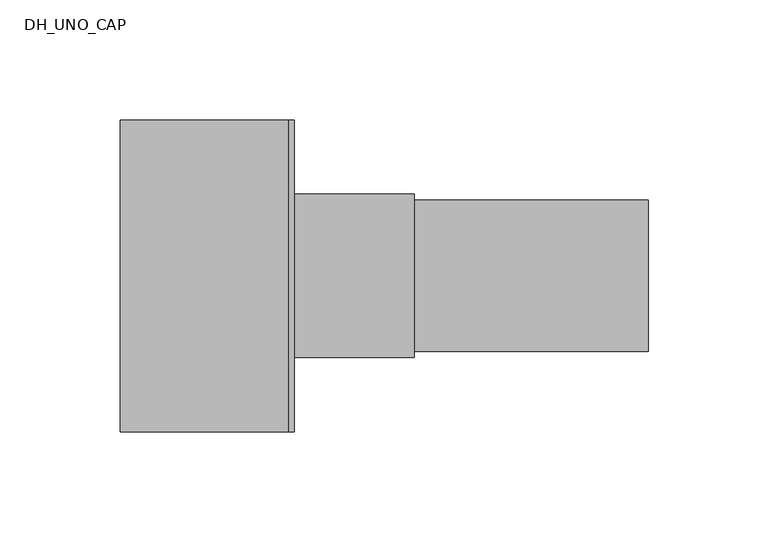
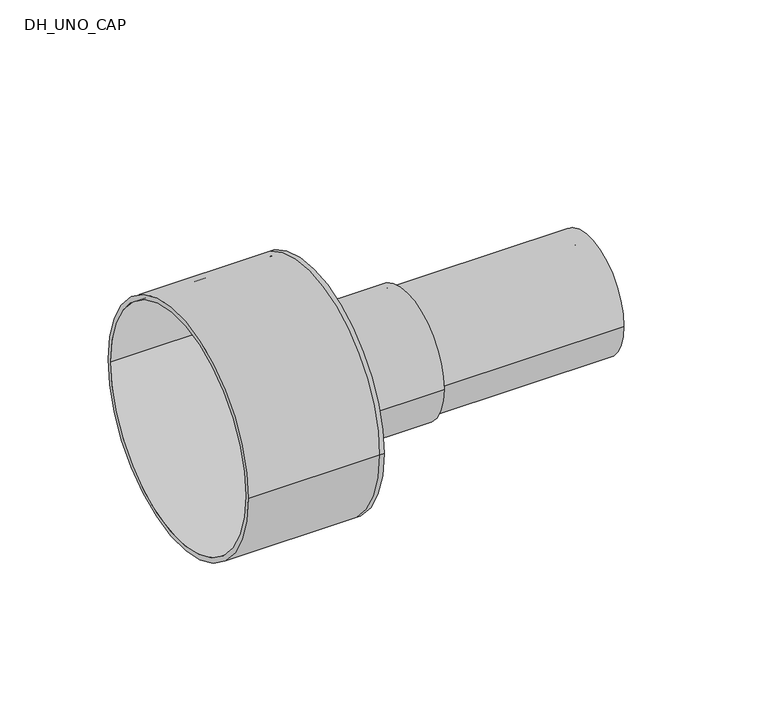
"""IFC4 building model written with IfcOpenShell, lengths in millimetres: pipe fitting geometry, DH_UNO_CAP : INSULPEX UNO 7.4 DW - Rubber Cap."""

from ifc_helpers import new_model, si_unit, point, frame, origin, origin_2d, place, context, project, spatial, polyline, circle_curve, trimmed, segment, composite_curve, outline, extrude, source, transform, mapped, element, save
from ifc_brep_helpers import plane_surface, cylinder_surface, revolved_surface, advanced_brep


def dh_uno_cap_1110688d(model_context):
    return source(origin(), model_context, "Body", "SolidModel", [
        extrude(outline(composite_curve([segment(trimmed(circle_curve(origin_2d(), 31.5), [point((-31.5, 0.0))], [point((31.5, 0.0))], False, "CARTESIAN"), True, "CONTINUOUS"), segment(trimmed(circle_curve(origin_2d(), 31.5), [point((31.5, 0.0))], [point((-31.5, 0.0))], False, "CARTESIAN"), True, "CONTINUOUS")], self_intersect=False), holes=[composite_curve([segment(trimmed(circle_curve(origin_2d(), 22.9), [point((-22.9, 0.0))], [point((22.9, 0.0))], True, "CARTESIAN"), True, "CONTINUOUS"), segment(trimmed(circle_curve(origin_2d(), 22.9), [point((22.9, 0.0))], [point((-22.9, 0.0))], True, "CARTESIAN"), True, "CONTINUOUS")], self_intersect=False)]), frame((0.0, 0.0, 0.0), z_axis=(1.0, 0.0, 0.0), x_axis=(0.0, 1.0, 0.0)), (0.0, 0.0, 1.0), 150.0),
        advanced_brep(
        [(-70.0, -65.0, 0.0), (-70.0, 65.0, 0.0), (-70.0, -62.5, 0.0), (-70.0, 62.5, 0.0), (0.0, -62.5, 0.0), (0.0, 62.5, 0.0), (0.0, -65.0, 0.0), (0.0, 65.0, 0.0), (0.0, 31.5, 0.0), (0.0, -31.5, 0.0), (2.5, -65.0, 0.0), (2.5, 65.0, 0.0), (2.5, -31.5, 0.0), (2.5, 31.5, 0.0)],
        [
            (0, 1, circle_curve(frame((-70.0, 0.0, 0.0), z_axis=(-1.0, 0.0, 0.0), x_axis=(0.0, 1.0, 0.0)), 65.0)),
            (1, 0, circle_curve(frame((-70.0, 0.0, 0.0), z_axis=(-1.0, 0.0, 0.0), x_axis=(0.0, 1.0, 0.0)), 65.0)),
            (2, 3, circle_curve(frame((-70.0, 0.0, 0.0), z_axis=(1.0, 0.0, 0.0), x_axis=(0.0, 1.0, 0.0)), 62.5)),
            (3, 2, circle_curve(frame((-70.0, 0.0, 0.0), z_axis=(1.0, 0.0, 0.0), x_axis=(0.0, 1.0, 0.0)), 62.5)),
            (2, 4),
            (4, 5, circle_curve(frame((0.0, 0.0, 0.0), z_axis=(1.0, 0.0, 0.0), x_axis=(0.0, 1.0, 0.0)), 62.5)),
            (5, 3),
            (5, 4, circle_curve(frame((0.0, 0.0, 0.0), z_axis=(1.0, 0.0, 0.0), x_axis=(0.0, 1.0, 0.0)), 62.5)),
            (0, 6),
            (6, 7, circle_curve(frame((0.0, 0.0, 0.0), z_axis=(-1.0, 0.0, 0.0), x_axis=(0.0, 1.0, 0.0)), 65.0)),
            (7, 1),
            (7, 6, circle_curve(frame((0.0, 0.0, 0.0), z_axis=(-1.0, 0.0, 0.0), x_axis=(0.0, 1.0, 0.0)), 65.0)),
            (8, 9, circle_curve(frame((0.0, 0.0, 0.0), z_axis=(1.0, 0.0, 0.0), x_axis=(0.0, 1.0, 0.0)), 31.5)),
            (9, 8, circle_curve(frame((0.0, 0.0, 0.0), z_axis=(1.0, 0.0, 0.0), x_axis=(0.0, 1.0, 0.0)), 31.5)),
            (10, 11, circle_curve(frame((2.5, 0.0, 0.0), z_axis=(1.0, 0.0, 0.0), x_axis=(0.0, 1.0, 0.0)), 65.0)),
            (11, 10, circle_curve(frame((2.5, 0.0, 0.0), z_axis=(1.0, 0.0, 0.0), x_axis=(0.0, 1.0, 0.0)), 65.0)),
            (12, 13, circle_curve(frame((2.5, 0.0, 0.0), z_axis=(-1.0, 0.0, 0.0), x_axis=(0.0, 1.0, 0.0)), 31.5)),
            (13, 12, circle_curve(frame((2.5, 0.0, 0.0), z_axis=(-1.0, 0.0, 0.0), x_axis=(0.0, 1.0, 0.0)), 31.5)),
            (11, 7),
            (6, 10),
            (8, 13),
            (12, 9),
        ],
        [
            plane_surface(frame((-70.0, 0.0, 0.0), z_axis=(-1.0, 0.0, 0.0), x_axis=(0.0, 0.0, 1.0))),
            revolved_surface(polyline([(0.0, 62.5, 0.0), (-70.0, 62.5, 0.0)]), (-70.0, 0.0, 0.0), (1.0, 0.0, 0.0)),
            cylinder_surface(frame((-70.0, 0.0, 0.0), z_axis=(-1.0, 0.0, 0.0), x_axis=(0.0, 1.0, 0.0)), 65.0),
            plane_surface(frame((0.0, 0.0, 0.0), z_axis=(-1.0, 0.0, 0.0), x_axis=(0.0, 0.0, 1.0))),
            plane_surface(frame((2.5, 0.0, 0.0), z_axis=(1.0, 0.0, 0.0), x_axis=(0.0, 0.0, 1.0))),
            cylinder_surface(frame((0.0, 0.0, 0.0), z_axis=(-1.0, 0.0, 0.0), x_axis=(0.0, 1.0, 0.0)), 65.0),
            revolved_surface(polyline([(0.0, 31.5, 0.0), (2.5, 31.5, 0.0)]), (0.0, 0.0, 0.0), (-1.0, 0.0, 0.0)),
        ],
        [
            (0, [[1, 2], [3, 4]]),
            (1, [[-3, 5, 6, 7]]),
            (1, [[-4, -7, 8, -5]]),
            (2, [[-1, 9, 10, 11]]),
            (2, [[-2, -11, 12, -9]]),
            (3, [[-6, -8], [13, 14]]),
            (4, [[15, 16], [17, 18]]),
            (5, [[-16, 19, -10, 20]]),
            (5, [[-15, -20, -12, -19]]),
            (6, [[21, -17, 22, -13]]),
            (6, [[-21, -14, -22, -18]]),
        ],
    ),
        extrude(outline(composite_curve([segment(trimmed(circle_curve(origin_2d(), 34.0), [point((-34.0, 0.0))], [point((34.0, 0.0))], False, "CARTESIAN"), True, "CONTINUOUS"), segment(trimmed(circle_curve(origin_2d(), 34.0), [point((34.0, 0.0))], [point((-34.0, 0.0))], False, "CARTESIAN"), True, "CONTINUOUS")], self_intersect=False), holes=[composite_curve([segment(trimmed(circle_curve(origin_2d(), 31.5), [point((-31.5, 0.0))], [point((31.5, 0.0))], True, "CARTESIAN"), True, "CONTINUOUS"), segment(trimmed(circle_curve(origin_2d(), 31.5), [point((31.5, 0.0))], [point((-31.5, 0.0))], True, "CARTESIAN"), True, "CONTINUOUS")], self_intersect=False)]), frame((2.5, 0.0, 0.0), z_axis=(1.0, 0.0, 0.0), x_axis=(0.0, 1.0, 0.0)), (0.0, 0.0, 1.0), 50.0),
    ])


if __name__ == "__main__":
    model = new_model("IFC4")
    model_context = context("Model", 3, world=origin())
    ifc_project = project(units=[si_unit("LENGTHUNIT", "METRE", prefix="MILLI")], contexts=[model_context])
    site = spatial("IfcSite", under=ifc_project)
    building = spatial("IfcBuilding", under=site)
    placement = place(None, origin())
    dh_uno_cap_shape = dh_uno_cap_1110688d(model_context)
    element("IfcPipeFitting", 1, ObjectType="DH_UNO_CAP : INSULPEX UNO 7.4 DW - Rubber Cap", at=placement, inside=building, context=model_context, shape_type="MappedRepresentation", body=[
        mapped(dh_uno_cap_shape, transform((0.0, 0.0, 0.0), x_axis=(1.0, 0.0, 0.0), y_axis=(0.0, 1.0, 0.0), z_axis=(0.0, 0.0, 1.0))),
    ])
    save(model, "model.ifc")
